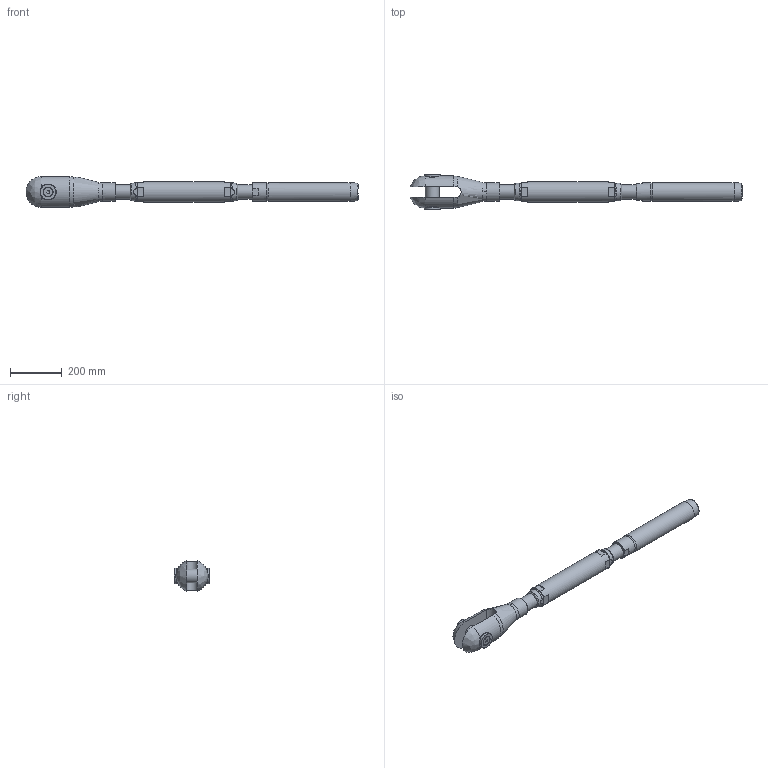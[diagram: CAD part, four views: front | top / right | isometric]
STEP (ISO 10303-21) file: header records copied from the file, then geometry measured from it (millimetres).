
FILE_DESCRIPTION(/* description */ (''),/* implementation_level */ '2;1');
FILE_NAME(/* name */ 'TBC 38_1,4462',/* time_stamp */ '2023-05-23T18:17:23+02:00',/* author */ (''),/* organization */ (''),/* preprocessor_version */ 'ST-DEVELOPER v16.5',/* originating_system */ 'Rhino 7.22',/* authorisation */ '');
FILE_SCHEMA (('CONFIG_CONTROL_DESIGN'));
Length unit declared in the file: millimetre
Products named in the file (1): Document
Bounding box: 1284.73 x 137.73 x 117.73 mm (x, y, z)
Volume: 5919215.9 mm3; surface area: 565814.7 mm2
Topology: 10 solids, 10 shells, 141 faces, 384 edges, 265 vertices
Faces by surface type: plane 65, bspline 41, cylinder 35
Full cylindrical faces by diameter (mm): 17.294 x2, 20 x2, 21 x2, 35.4 x2, 52.752 x4, 53 x1, 54 x2, 56 x2, 60 x1, 61 x2, 70 x2, 73.5 x1, 80 x1
Entity records: 5966 total; most frequent: CARTESIAN_POINT 3530, ORIENTED_EDGE 760, EDGE_CURVE 380, VERTEX_POINT 265, EDGE_LOOP 161, B_SPLINE_CURVE_WITH_KNOTS 158, ADVANCED_FACE 141, FACE_OUTER_BOUND 141
